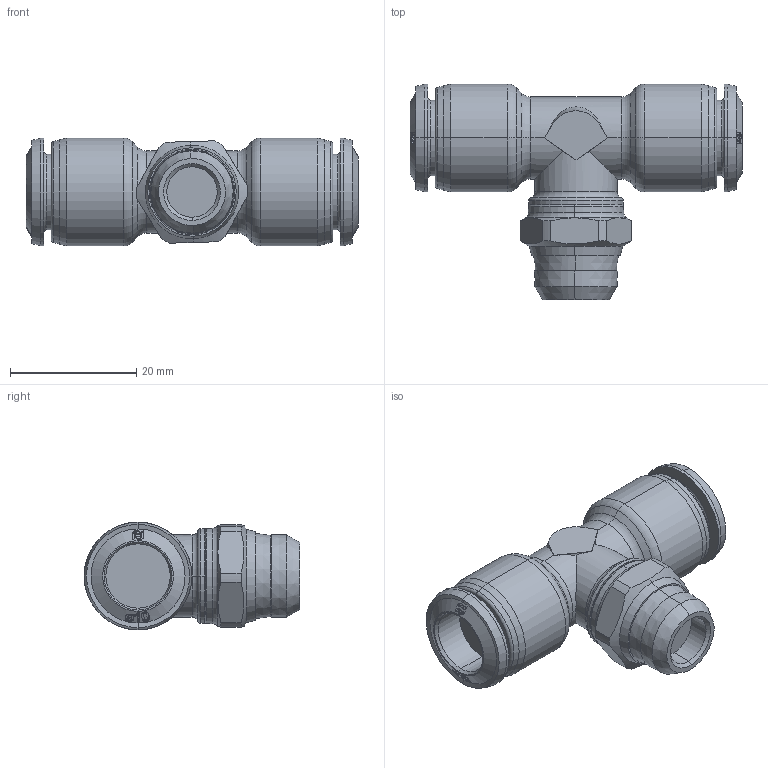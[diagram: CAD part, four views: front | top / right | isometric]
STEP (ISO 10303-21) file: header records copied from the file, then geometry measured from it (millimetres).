
FILE_DESCRIPTION (( 'STEP AP214' ), '1' );
FILE_NAME ('5521100012.step', '2012-10-02T17:39:26', ( '' ), ( '' ), 'SwSTEP 2.0', 'SolidWorks 2012', '' );
FILE_SCHEMA (( 'AUTOMOTIVE_DESIGN' ));
Length unit declared in the file: millimetre
Products named in the file (1): 5521100012
Bounding box: 52.6 x 34.2 x 17.1 mm (x, y, z)
Volume: 11874.5 mm3; surface area: 5051.4 mm2
Topology: 1 solids, 1 shells, 286 faces, 688 edges, 428 vertices
Faces by surface type: bspline 108, cone 78, cylinder 37, plane 33, torus 30
Entity records: 18008 total; most frequent: CARTESIAN_POINT 9129, ORIENTED_EDGE 1376, DIRECTION 854, EDGE_CURVE 688, VERTEX_POINT 428, AXIS2_PLACEMENT_3D 369, B_SPLINE_CURVE_WITH_KNOTS 366, EDGE_LOOP 310
